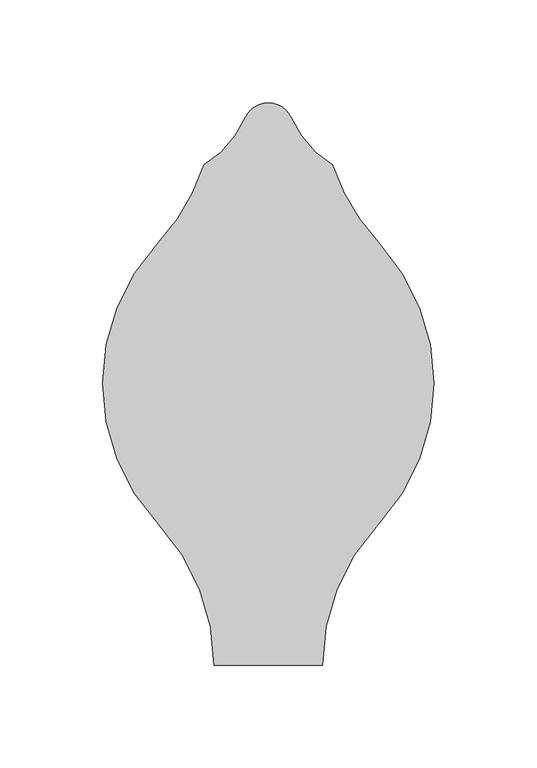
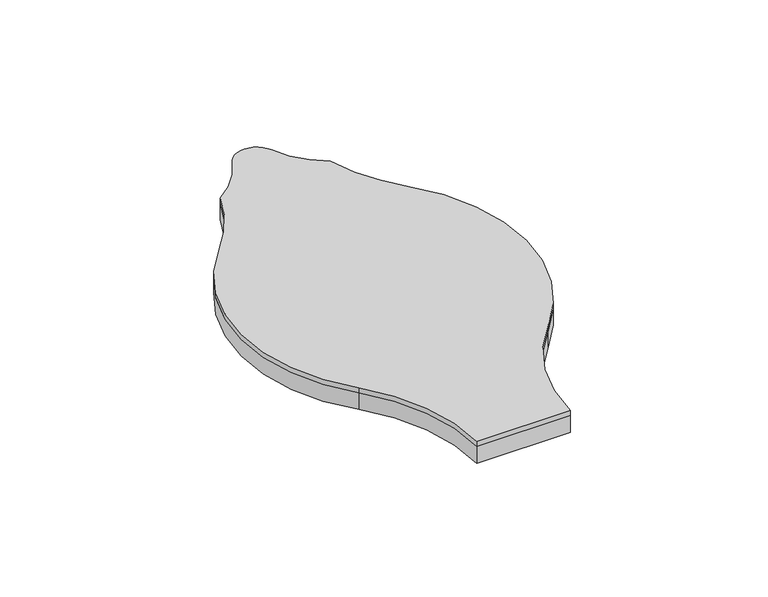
"""IFC4 building model written with IfcOpenShell, lengths in millimetres: proxy geometry, FilzFelt_Fish_Block : Fish Block."""

from ifc_helpers import new_model, si_unit, frame, origin, place, context, project, spatial, polyline, circle_curve, source, transform, mapped, element, save
from ifc_brep_helpers import plane_surface, cylinder_surface, revolved_surface, advanced_brep


def specialty_equipment_e357aaf0(model_context):
    return source(origin(), model_context, "Body", "AdvancedBrep", [
        advanced_brep(
        [(53.5486457, 68.6120133, 10.0210937), (53.5486457, -68.6120133, 10.0210937), (26.3830688, -137.2240266, 10.0210937), (-26.3830688, -137.2240266, 10.0210937), (-53.5486457, -68.6120133, 10.0210937), (-80.7142226, 0.0, 10.0210937), (-53.5486457, 68.6120133, 10.0210937), (-31.2619065, 106.3338576, 10.0210937), (-11.0103348, 129.4133496, 10.0210937), (11.0103348, 129.4133496, 10.0210937), (31.2619065, 106.3338576, 10.0210937), (53.5486457, 68.6120133, 12.9976563), (31.2619065, 106.3338576, 12.9976563), (11.0103348, 129.4133496, 12.9976563), (0.0, 136.5838795, 12.9976563), (-11.0103348, 129.4133496, 12.9976563), (-31.2619065, 106.3338576, 12.9976563), (-53.5486457, 68.6120133, 12.9976563), (-80.7142226, 0.0, 12.9976563), (-53.5486457, -68.6120133, 12.9976563), (-26.3830688, -137.2240266, 12.9976563), (26.3830688, -137.2240266, 12.9976563), (53.5486457, -68.6120133, 12.9976563), (80.7142226, 0.0, 12.9976563)],
        [
            (0, 1, circle_curve(frame((-19.5151403, 0.0, 10.0210937), z_axis=(0.0, 0.0, -1.0), x_axis=(-1.0, 0.0, 0.0)), 100.2293629)),
            (1, 2, circle_curve(frame((126.6124317, -137.2240266, 10.0210937), z_axis=(0.0, 0.0, 1.0), x_axis=(-1.0, 0.0, 0.0)), 100.2293629)),
            (2, 3),
            (3, 4, circle_curve(frame((-126.6124317, -137.2240266, 10.0210937), z_axis=(0.0, 0.0, 1.0), x_axis=(-1.0, 0.0, 0.0)), 100.2293629)),
            (4, 5, circle_curve(frame((19.5151403, 0.0, 10.0210937), z_axis=(0.0, 0.0, -1.0), x_axis=(-1.0, 0.0, 0.0)), 100.2293629)),
            (5, 6, circle_curve(frame((19.5151403, 0.0, 10.0210937), z_axis=(0.0, 0.0, -1.0), x_axis=(-1.0, 0.0, 0.0)), 100.2293629)),
            (6, 7, circle_curve(frame((-126.6124317, 137.2240266, 10.0210937), z_axis=(0.0, 0.0, 1.0), x_axis=(-1.0, 0.0, 0.0)), 100.2293629)),
            (7, 8, circle_curve(frame((-57.9263497, 150.1559416, 10.0210937), z_axis=(0.0, 0.0, 1.0), x_axis=(-1.0, 0.0, 0.0)), 51.2968574)),
            (8, 9, circle_curve(frame((0.0, 124.5454408, 10.0210937), z_axis=(0.0, 0.0, -1.0), x_axis=(-1.0, 0.0, 0.0)), 12.0384388)),
            (9, 10, circle_curve(frame((57.9263497, 150.1559416, 10.0210937), z_axis=(0.0, 0.0, 1.0), x_axis=(-1.0, 0.0, 0.0)), 51.2968574)),
            (10, 0, circle_curve(frame((126.6124317, 137.2240266, 10.0210937), z_axis=(0.0, 0.0, 1.0), x_axis=(-1.0, 0.0, 0.0)), 100.2293629)),
            (11, 12, circle_curve(frame((126.6124317, 137.2240266, 12.9976563), z_axis=(0.0, 0.0, -1.0), x_axis=(-1.0, 0.0, 0.0)), 100.2293629)),
            (12, 13, circle_curve(frame((57.9263497, 150.1559416, 12.9976563), z_axis=(0.0, 0.0, -1.0), x_axis=(-1.0, 0.0, 0.0)), 51.2968574)),
            (13, 14, circle_curve(frame((0.0, 124.5454408, 12.9976563), z_axis=(0.0, 0.0, 1.0), x_axis=(-1.0, 0.0, 0.0)), 12.0384388)),
            (14, 15, circle_curve(frame((0.0, 124.5454408, 12.9976563), z_axis=(0.0, 0.0, 1.0), x_axis=(-1.0, 0.0, 0.0)), 12.0384388)),
            (15, 16, circle_curve(frame((-57.9263497, 150.1559416, 12.9976563), z_axis=(0.0, 0.0, -1.0), x_axis=(-1.0, 0.0, 0.0)), 51.2968574)),
            (16, 17, circle_curve(frame((-126.6124317, 137.2240266, 12.9976563), z_axis=(0.0, 0.0, -1.0), x_axis=(-1.0, 0.0, 0.0)), 100.2293629)),
            (17, 18, circle_curve(frame((19.5151403, 0.0, 12.9976563), z_axis=(0.0, 0.0, 1.0), x_axis=(-1.0, 0.0, 0.0)), 100.2293629)),
            (18, 19, circle_curve(frame((19.5151403, 0.0, 12.9976563), z_axis=(0.0, 0.0, 1.0), x_axis=(-1.0, 0.0, 0.0)), 100.2293629)),
            (19, 20, circle_curve(frame((-126.6124317, -137.2240266, 12.9976563), z_axis=(0.0, 0.0, -1.0), x_axis=(-1.0, 0.0, 0.0)), 100.2293629)),
            (20, 21),
            (21, 22, circle_curve(frame((126.6124317, -137.2240266, 12.9976563), z_axis=(0.0, 0.0, -1.0), x_axis=(-1.0, 0.0, 0.0)), 100.2293629)),
            (22, 23, circle_curve(frame((-19.5151403, 0.0, 12.9976563), z_axis=(0.0, 0.0, 1.0), x_axis=(-1.0, 0.0, 0.0)), 100.2293629)),
            (23, 11, circle_curve(frame((-19.5151403, 0.0, 12.9976563), z_axis=(0.0, 0.0, 1.0), x_axis=(-1.0, 0.0, 0.0)), 100.2293629)),
            (0, 11),
            (22, 1),
            (21, 2),
            (19, 4),
            (3, 20),
            (17, 6),
            (16, 7),
            (15, 8),
            (13, 9),
            (12, 10),
        ],
        [
            plane_surface(frame((0.0, 0.0, 10.0210937), z_axis=(0.0, 0.0, -1.0), x_axis=(0.0, -1.0, 0.0))),
            plane_surface(frame((0.0, 0.0, 12.9976563), z_axis=(0.0, 0.0, 1.0), x_axis=(0.0, -1.0, 0.0))),
            cylinder_surface(frame((-19.5151403, 0.0, 10.0210937), z_axis=(0.0, 0.0, -1.0), x_axis=(-1.0, 0.0, 0.0)), 100.2293629),
            revolved_surface(polyline([(26.383068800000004, -137.2240266, 12.9976563), (26.383068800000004, -137.2240266, 10.0210937)]), (126.6124317, -137.2240266, 10.0210937), (0.0, 0.0, 1.0)),
            revolved_surface(polyline([(-226.84179460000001, -137.2240266, 12.9976563), (-226.84179460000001, -137.2240266, 10.0210937)]), (-126.6124317, -137.2240266, 10.0210937), (0.0, 0.0, 1.0)),
            cylinder_surface(frame((19.5151403, 0.0, 10.0210937), z_axis=(0.0, 0.0, -1.0), x_axis=(-1.0, 0.0, 0.0)), 100.2293629),
            revolved_surface(polyline([(-226.84179460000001, 137.2240266, 12.9976563), (-226.84179460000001, 137.2240266, 10.0210937)]), (-126.6124317, 137.2240266, 10.0210937), (0.0, 0.0, 1.0)),
            revolved_surface(polyline([(-109.2232071, 150.1559416, 12.9976563), (-109.2232071, 150.1559416, 10.0210937)]), (-57.9263497, 150.1559416, 10.0210937), (0.0, 0.0, 1.0)),
            cylinder_surface(frame((0.0, 124.5454408, 10.0210937), z_axis=(0.0, 0.0, -1.0), x_axis=(-1.0, 0.0, 0.0)), 12.0384388),
            revolved_surface(polyline([(6.629492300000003, 150.1559416, 12.9976563), (6.629492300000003, 150.1559416, 10.0210937)]), (57.9263497, 150.1559416, 10.0210937), (0.0, 0.0, 1.0)),
            revolved_surface(polyline([(26.383068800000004, 137.2240266, 12.9976563), (26.383068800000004, 137.2240266, 10.0210937)]), (126.6124317, 137.2240266, 10.0210937), (0.0, 0.0, 1.0)),
            plane_surface(frame((112.4642226, -137.2240266, 12.9976562), z_axis=(0.0, -1.0, 0.0), x_axis=(0.0, 0.0, -1.0))),
        ],
        [
            (0, [[1, 2, 3, 4, 5, 6, 7, 8, 9, 10, 11]]),
            (1, [[12, 13, 14, 15, 16, 17, 18, 19, 20, 21, 22, 23, 24]]),
            (2, [[-1, 25, -24, -23, 26]]),
            (3, [[-26, -22, 27, -2]]),
            (4, [[28, -4, 29, -20]]),
            (5, [[-28, -19, -18, 30, -6, -5]]),
            (6, [[-7, -30, -17, 31]]),
            (7, [[-8, -31, -16, 32]]),
            (8, [[-9, -32, -15, -14, 33]]),
            (9, [[-10, -33, -13, 34]]),
            (10, [[-11, -34, -12, -25]]),
            (11, [[-3, -27, -21, -29]]),
        ],
    ),
        advanced_brep(
        [(-53.5486457, 68.6120133, 0.0), (-31.2619065, 106.3338576, 0.0), (-11.0103348, 129.4133496, 0.0), (0.0, 136.5838795, 0.0), (11.0103348, 129.4133496, 0.0), (31.2619065, 106.3338576, 0.0), (53.5486457, 68.6120133, 0.0), (80.7142226, 0.0, 0.0), (53.5486457, -68.6120133, 0.0), (26.3830688, -137.2240266, 0.0), (-26.3830688, -137.2240266, 0.0), (-53.5486457, -68.6120133, 0.0), (-80.7142226, 0.0, 0.0), (53.5486457, -68.6120133, 10.0210937), (53.5486457, 68.6120133, 10.0210937), (31.2619065, 106.3338576, 10.0210937), (11.0103348, 129.4133496, 10.0210937), (-11.0103348, 129.4133496, 10.0210937), (-31.2619065, 106.3338576, 10.0210937), (-53.5486457, 68.6120133, 10.0210937), (-80.7142226, 0.0, 10.0210937), (-53.5486457, -68.6120133, 10.0210937), (-26.3830688, -137.2240266, 10.0210937), (26.3830688, -137.2240266, 10.0210937)],
        [
            (0, 1, circle_curve(frame((-126.6124317, 137.2240266, 0.0), z_axis=(0.0, 0.0, 1.0), x_axis=(-1.0, 0.0, 0.0)), 100.2293629)),
            (1, 2, circle_curve(frame((-57.9263497, 150.1559416, 0.0), z_axis=(0.0, 0.0, 1.0), x_axis=(-1.0, 0.0, 0.0)), 51.2968574)),
            (2, 3, circle_curve(frame((0.0, 124.5454408, 0.0), z_axis=(0.0, 0.0, -1.0), x_axis=(-1.0, 0.0, 0.0)), 12.0384388)),
            (3, 4, circle_curve(frame((0.0, 124.5454408, 0.0), z_axis=(0.0, 0.0, -1.0), x_axis=(-1.0, 0.0, 0.0)), 12.0384388)),
            (4, 5, circle_curve(frame((57.9263497, 150.1559416, 0.0), z_axis=(0.0, 0.0, 1.0), x_axis=(-1.0, 0.0, 0.0)), 51.2968574)),
            (5, 6, circle_curve(frame((126.6124317, 137.2240266, 0.0), z_axis=(0.0, 0.0, 1.0), x_axis=(-1.0, 0.0, 0.0)), 100.2293629)),
            (6, 7, circle_curve(frame((-19.5151403, 0.0, 0.0), z_axis=(0.0, 0.0, -1.0), x_axis=(-1.0, 0.0, 0.0)), 100.2293629)),
            (7, 8, circle_curve(frame((-19.5151403, 0.0, 0.0), z_axis=(0.0, 0.0, -1.0), x_axis=(-1.0, 0.0, 0.0)), 100.2293629)),
            (8, 9, circle_curve(frame((126.6124317, -137.2240266, 0.0), z_axis=(0.0, 0.0, 1.0), x_axis=(-1.0, 0.0, 0.0)), 100.2293629)),
            (9, 10),
            (10, 11, circle_curve(frame((-126.6124317, -137.2240266, 0.0), z_axis=(0.0, 0.0, 1.0), x_axis=(-1.0, 0.0, 0.0)), 100.2293629)),
            (11, 12, circle_curve(frame((19.5151403, 0.0, 0.0), z_axis=(0.0, 0.0, -1.0), x_axis=(-1.0, 0.0, 0.0)), 100.2293629)),
            (12, 0, circle_curve(frame((19.5151403, 0.0, 0.0), z_axis=(0.0, 0.0, -1.0), x_axis=(-1.0, 0.0, 0.0)), 100.2293629)),
            (13, 14, circle_curve(frame((-19.5151403, 0.0, 10.0210937), z_axis=(0.0, 0.0, 1.0), x_axis=(-1.0, 0.0, 0.0)), 100.2293629)),
            (14, 15, circle_curve(frame((126.6124317, 137.2240266, 10.0210937), z_axis=(0.0, 0.0, -1.0), x_axis=(-1.0, 0.0, 0.0)), 100.2293629)),
            (15, 16, circle_curve(frame((57.9263497, 150.1559416, 10.0210937), z_axis=(0.0, 0.0, -1.0), x_axis=(-1.0, 0.0, 0.0)), 51.2968574)),
            (16, 17, circle_curve(frame((0.0, 124.5454408, 10.0210937), z_axis=(0.0, 0.0, 1.0), x_axis=(-1.0, 0.0, 0.0)), 12.0384388)),
            (17, 18, circle_curve(frame((-57.9263497, 150.1559416, 10.0210937), z_axis=(0.0, 0.0, -1.0), x_axis=(-1.0, 0.0, 0.0)), 51.2968574)),
            (18, 19, circle_curve(frame((-126.6124317, 137.2240266, 10.0210937), z_axis=(0.0, 0.0, -1.0), x_axis=(-1.0, 0.0, 0.0)), 100.2293629)),
            (19, 20, circle_curve(frame((19.5151403, 0.0, 10.0210937), z_axis=(0.0, 0.0, 1.0), x_axis=(-1.0, 0.0, 0.0)), 100.2293629)),
            (20, 21, circle_curve(frame((19.5151403, 0.0, 10.0210937), z_axis=(0.0, 0.0, 1.0), x_axis=(-1.0, 0.0, 0.0)), 100.2293629)),
            (21, 22, circle_curve(frame((-126.6124317, -137.2240266, 10.0210937), z_axis=(0.0, 0.0, -1.0), x_axis=(-1.0, 0.0, 0.0)), 100.2293629)),
            (22, 23),
            (23, 13, circle_curve(frame((126.6124317, -137.2240266, 10.0210937), z_axis=(0.0, 0.0, -1.0), x_axis=(-1.0, 0.0, 0.0)), 100.2293629)),
            (21, 11),
            (10, 22),
            (19, 0),
            (18, 1),
            (17, 2),
            (16, 4),
            (15, 5),
            (14, 6),
            (13, 8),
            (23, 9),
        ],
        [
            plane_surface(frame((0.0, 0.0, 0.0), z_axis=(0.0, 0.0, -1.0), x_axis=(0.0, -1.0, 0.0))),
            plane_surface(frame((0.0, 0.0, 10.0210937), z_axis=(0.0, 0.0, 1.0), x_axis=(0.0, -1.0, 0.0))),
            revolved_surface(polyline([(-226.84179460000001, -137.2240266, 10.0210937), (-226.84179460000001, -137.2240266, 0.0)]), (-126.6124317, -137.2240266, 0.0), (0.0, 0.0, 1.0)),
            cylinder_surface(frame((19.5151403, 0.0, 0.0), z_axis=(0.0, 0.0, -1.0), x_axis=(-1.0, 0.0, 0.0)), 100.2293629),
            revolved_surface(polyline([(-226.84179460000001, 137.2240266, 10.0210937), (-226.84179460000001, 137.2240266, 0.0)]), (-126.6124317, 137.2240266, 0.0), (0.0, 0.0, 1.0)),
            revolved_surface(polyline([(-109.2232071, 150.1559416, 10.0210937), (-109.2232071, 150.1559416, 0.0)]), (-57.9263497, 150.1559416, 0.0), (0.0, 0.0, 1.0)),
            cylinder_surface(frame((0.0, 124.5454408, 0.0), z_axis=(0.0, 0.0, -1.0), x_axis=(-1.0, 0.0, 0.0)), 12.0384388),
            revolved_surface(polyline([(6.629492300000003, 150.1559416, 10.0210937), (6.629492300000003, 150.1559416, 0.0)]), (57.9263497, 150.1559416, 0.0), (0.0, 0.0, 1.0)),
            revolved_surface(polyline([(26.383068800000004, 137.2240266, 10.0210937), (26.383068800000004, 137.2240266, 0.0)]), (126.6124317, 137.2240266, 0.0), (0.0, 0.0, 1.0)),
            cylinder_surface(frame((-19.5151403, 0.0, 0.0), z_axis=(0.0, 0.0, -1.0), x_axis=(-1.0, 0.0, 0.0)), 100.2293629),
            revolved_surface(polyline([(26.383068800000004, -137.2240266, 10.0210937), (26.383068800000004, -137.2240266, 0.0)]), (126.6124317, -137.2240266, 0.0), (0.0, 0.0, 1.0)),
            plane_surface(frame((112.4642226, -137.2240266, 12.9976562), z_axis=(0.0, -1.0, 0.0), x_axis=(0.0, 0.0, -1.0))),
        ],
        [
            (0, [[1, 2, 3, 4, 5, 6, 7, 8, 9, 10, 11, 12, 13]]),
            (1, [[14, 15, 16, 17, 18, 19, 20, 21, 22, 23, 24]]),
            (2, [[25, -11, 26, -22]]),
            (3, [[-25, -21, -20, 27, -13, -12]]),
            (4, [[-1, -27, -19, 28]]),
            (5, [[-2, -28, -18, 29]]),
            (6, [[-17, 30, -4, -3, -29]]),
            (7, [[-5, -30, -16, 31]]),
            (8, [[-6, -31, -15, 32]]),
            (9, [[-14, 33, -8, -7, -32]]),
            (10, [[-33, -24, 34, -9]]),
            (11, [[-10, -34, -23, -26]]),
        ],
    ),
    ])


if __name__ == "__main__":
    model = new_model("IFC4")
    model_context = context("Model", 3, world=origin())
    ifc_project = project(units=[si_unit("LENGTHUNIT", "METRE", prefix="MILLI")], contexts=[model_context])
    site = spatial("IfcSite", under=ifc_project)
    building = spatial("IfcBuilding", under=site)
    placement = place(None, origin())
    specialty_equipment_shape = specialty_equipment_e357aaf0(model_context)
    element("IfcBuildingElementProxy", 1, Name="FilzFelt_Fish_Block : Fish Block", ObjectType="FilzFelt_Fish_Block : Fish Block", at=placement, inside=building, context=model_context, shape_type="MappedRepresentation", body=[
        mapped(specialty_equipment_shape, transform((0.0, 0.0, 0.0), x_axis=(1.0, 0.0, 0.0), y_axis=(0.0, 1.0, 0.0), z_axis=(0.0, 0.0, 1.0))),
    ])
    save(model, "model.ifc")
